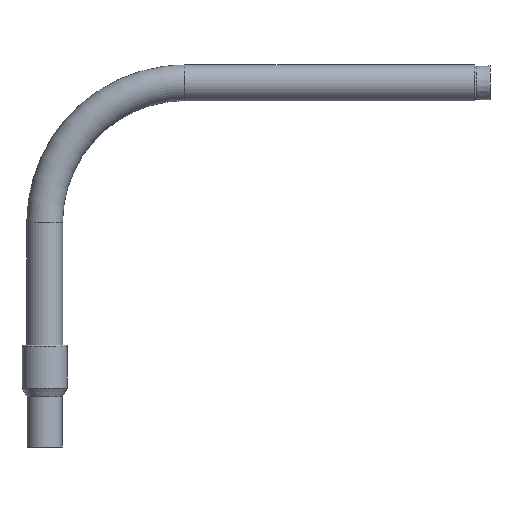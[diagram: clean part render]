
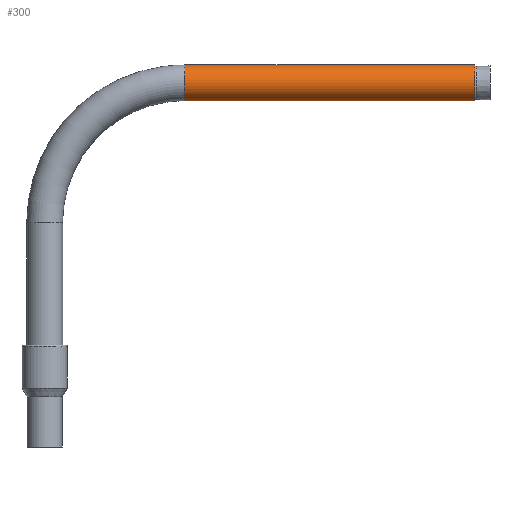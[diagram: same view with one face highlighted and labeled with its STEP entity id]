
A CAD part, front view. The second image highlights one B-rep face of the part: STEP entity #300.
In plain terms, the highlighted cylindrical face has radius 31.95 mm (diameter 63.9 mm), a full revolution.
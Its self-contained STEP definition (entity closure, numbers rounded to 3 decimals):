
#41=ORIENTED_EDGE('',*,*,#79,.T.);
#42=ORIENTED_EDGE('',*,*,#80,.T.);
#79=EDGE_CURVE('',#98,#98,#117,.T.);
#80=EDGE_CURVE('',#99,#99,#118,.F.);
#98=VERTEX_POINT('',#455);
#99=VERTEX_POINT('',#457);
#117=CIRCLE('',#331,31.95);
#118=CIRCLE('',#332,31.95);
#136=EDGE_LOOP('',(#41));
#137=EDGE_LOOP('',(#42));
#174=FACE_BOUND('',#136,.T.);
#175=FACE_BOUND('',#137,.T.);
#212=CYLINDRICAL_SURFACE('',#330,31.95);
#300=ADVANCED_FACE('',(#174,#175),#212,.T.);
#330=AXIS2_PLACEMENT_3D('',#453,#372,#373);
#331=AXIS2_PLACEMENT_3D('',#454,#374,#375);
#332=AXIS2_PLACEMENT_3D('',#456,#376,#377);
#372=DIRECTION('',(1.,0.,0.));
#373=DIRECTION('',(0.,0.,-1.));
#374=DIRECTION('',(-1.,0.,0.));
#375=DIRECTION('',(0.,0.,1.));
#376=DIRECTION('',(-1.,0.,0.));
#377=DIRECTION('',(0.,0.,-1.));
#453=CARTESIAN_POINT('',(281.95,0.,538.05));
#454=CARTESIAN_POINT('',(799.6,0.,538.05));
#455=CARTESIAN_POINT('',(799.6,0.,570.));
#456=CARTESIAN_POINT('',(281.95,0.,538.05));
#457=CARTESIAN_POINT('',(281.95,0.,506.1));
